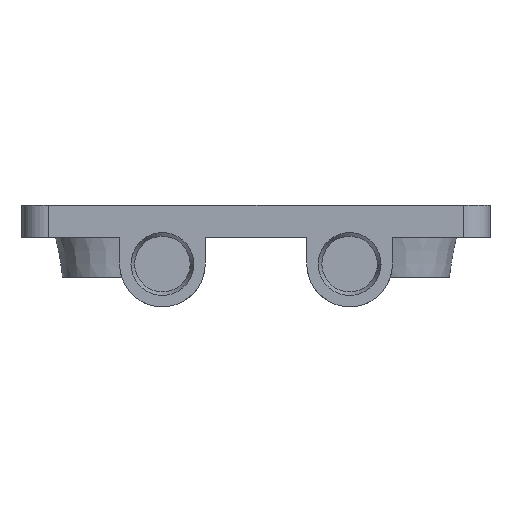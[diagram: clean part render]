
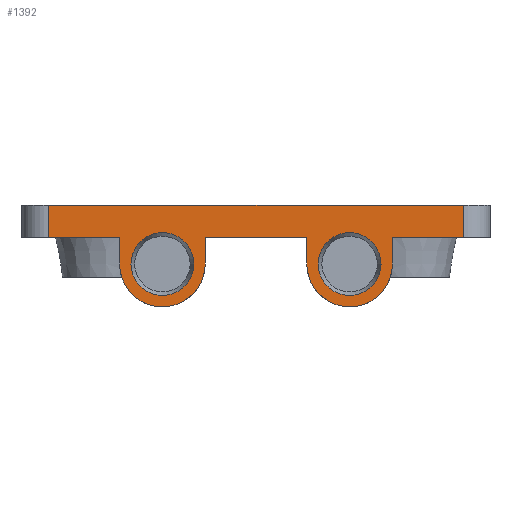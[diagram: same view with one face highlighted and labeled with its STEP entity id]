
A CAD part, front view. The second image highlights one B-rep face of the part: STEP entity #1392.
In plain terms, the highlighted planar face has unit normal (0, -1, 0).
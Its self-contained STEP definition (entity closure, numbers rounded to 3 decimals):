
#60=FACE_BOUND('',#193,.T.);
#61=FACE_BOUND('',#194,.T.);
#67=PLANE('',#1506);
#111=FACE_OUTER_BOUND('',#192,.T.);
#192=EDGE_LOOP('',(#989,#990,#991,#992,#993,#994,#995,#996,#997,#998,#999,
#1000));
#193=EDGE_LOOP('',(#1001));
#194=EDGE_LOOP('',(#1002));
#277=LINE('',#2070,#407);
#279=LINE('',#2076,#409);
#283=LINE('',#2088,#413);
#287=LINE('',#2100,#417);
#304=LINE('',#2154,#434);
#305=LINE('',#2155,#435);
#306=LINE('',#2157,#436);
#307=LINE('',#2160,#437);
#308=LINE('',#2162,#438);
#309=LINE('',#2165,#439);
#407=VECTOR('',#1645,10.);
#409=VECTOR('',#1651,10.);
#413=VECTOR('',#1659,10.);
#417=VECTOR('',#1667,10.);
#434=VECTOR('',#1706,10.);
#435=VECTOR('',#1707,10.);
#436=VECTOR('',#1708,10.);
#437=VECTOR('',#1711,10.);
#438=VECTOR('',#1712,10.);
#439=VECTOR('',#1715,10.);
#553=CIRCLE('',#1507,3.2);
#554=CIRCLE('',#1508,3.2);
#555=CIRCLE('',#1509,2.35);
#556=CIRCLE('',#1510,2.35);
#601=VERTEX_POINT('',#2067);
#602=VERTEX_POINT('',#2069);
#604=VERTEX_POINT('',#2075);
#609=VERTEX_POINT('',#2085);
#610=VERTEX_POINT('',#2087);
#615=VERTEX_POINT('',#2097);
#616=VERTEX_POINT('',#2099);
#642=VERTEX_POINT('',#2153);
#643=VERTEX_POINT('',#2156);
#644=VERTEX_POINT('',#2158);
#645=VERTEX_POINT('',#2161);
#646=VERTEX_POINT('',#2163);
#647=VERTEX_POINT('',#2166);
#648=VERTEX_POINT('',#2168);
#735=EDGE_CURVE('',#601,#602,#277,.T.);
#738=EDGE_CURVE('',#602,#604,#279,.T.);
#744=EDGE_CURVE('',#609,#610,#283,.T.);
#750=EDGE_CURVE('',#615,#616,#287,.T.);
#777=EDGE_CURVE('',#642,#601,#304,.T.);
#778=EDGE_CURVE('',#616,#642,#305,.T.);
#779=EDGE_CURVE('',#643,#615,#306,.T.);
#780=EDGE_CURVE('',#643,#644,#553,.T.);
#781=EDGE_CURVE('',#644,#610,#307,.T.);
#782=EDGE_CURVE('',#645,#609,#308,.T.);
#783=EDGE_CURVE('',#645,#646,#554,.T.);
#784=EDGE_CURVE('',#646,#604,#309,.T.);
#785=EDGE_CURVE('',#647,#647,#555,.T.);
#786=EDGE_CURVE('',#648,#648,#556,.T.);
#989=ORIENTED_EDGE('',*,*,#735,.F.);
#990=ORIENTED_EDGE('',*,*,#777,.F.);
#991=ORIENTED_EDGE('',*,*,#778,.F.);
#992=ORIENTED_EDGE('',*,*,#750,.F.);
#993=ORIENTED_EDGE('',*,*,#779,.F.);
#994=ORIENTED_EDGE('',*,*,#780,.T.);
#995=ORIENTED_EDGE('',*,*,#781,.T.);
#996=ORIENTED_EDGE('',*,*,#744,.F.);
#997=ORIENTED_EDGE('',*,*,#782,.F.);
#998=ORIENTED_EDGE('',*,*,#783,.T.);
#999=ORIENTED_EDGE('',*,*,#784,.T.);
#1000=ORIENTED_EDGE('',*,*,#738,.F.);
#1001=ORIENTED_EDGE('',*,*,#785,.T.);
#1002=ORIENTED_EDGE('',*,*,#786,.T.);
#1392=ADVANCED_FACE('',(#111,#60,#61),#67,.T.);
#1506=AXIS2_PLACEMENT_3D('',#2152,#1704,#1705);
#1507=AXIS2_PLACEMENT_3D('',#2159,#1709,#1710);
#1508=AXIS2_PLACEMENT_3D('',#2164,#1713,#1714);
#1509=AXIS2_PLACEMENT_3D('',#2167,#1716,#1717);
#1510=AXIS2_PLACEMENT_3D('',#2169,#1718,#1719);
#1645=DIRECTION('',(0.,0.,-1.));
#1651=DIRECTION('',(-1.,0.,0.));
#1659=DIRECTION('',(-1.,0.,0.));
#1667=DIRECTION('',(-1.,0.,0.));
#1704=DIRECTION('center_axis',(0.,-1.,0.));
#1705=DIRECTION('ref_axis',(-1.,0.,0.));
#1706=DIRECTION('',(1.,0.,0.));
#1707=DIRECTION('',(0.,0.,1.));
#1708=DIRECTION('',(0.,0.,1.));
#1709=DIRECTION('center_axis',(0.,-1.,0.));
#1710=DIRECTION('ref_axis',(-1.,0.,0.));
#1711=DIRECTION('',(0.,0.,1.));
#1712=DIRECTION('',(0.,0.,1.));
#1713=DIRECTION('center_axis',(0.,-1.,0.));
#1714=DIRECTION('ref_axis',(-1.,0.,0.));
#1715=DIRECTION('',(0.,0.,1.));
#1716=DIRECTION('center_axis',(0.,1.,0.));
#1717=DIRECTION('ref_axis',(0.,0.,-1.));
#1718=DIRECTION('center_axis',(0.,1.,0.));
#1719=DIRECTION('ref_axis',(0.,0.,-1.));
#2067=CARTESIAN_POINT('',(-4.5,-56.227,-2.));
#2069=CARTESIAN_POINT('',(-4.5,-56.227,-4.4));
#2070=CARTESIAN_POINT('',(-4.5,-56.227,-2.));
#2075=CARTESIAN_POINT('',(-9.8,-56.227,-4.4));
#2076=CARTESIAN_POINT('',(-33.5,-56.227,-4.4));
#2085=CARTESIAN_POINT('',(-16.2,-56.227,-4.4));
#2087=CARTESIAN_POINT('',(-23.8,-56.227,-4.4));
#2088=CARTESIAN_POINT('',(-33.5,-56.227,-4.4));
#2097=CARTESIAN_POINT('',(-30.2,-56.227,-4.4));
#2099=CARTESIAN_POINT('',(-35.5,-56.227,-4.4));
#2100=CARTESIAN_POINT('',(-33.5,-56.227,-4.4));
#2152=CARTESIAN_POINT('Origin',(-6.5,-56.227,-2.));
#2153=CARTESIAN_POINT('',(-35.5,-56.227,-2.));
#2154=CARTESIAN_POINT('',(-33.5,-56.227,-2.));
#2155=CARTESIAN_POINT('',(-35.5,-56.227,-2.));
#2156=CARTESIAN_POINT('',(-30.2,-56.227,-6.4));
#2157=CARTESIAN_POINT('',(-30.2,-56.227,-6.4));
#2158=CARTESIAN_POINT('',(-23.8,-56.227,-6.4));
#2159=CARTESIAN_POINT('Origin',(-27.,-56.227,-6.4));
#2160=CARTESIAN_POINT('',(-23.8,-56.227,-6.4));
#2161=CARTESIAN_POINT('',(-16.2,-56.227,-6.4));
#2162=CARTESIAN_POINT('',(-16.2,-56.227,-6.4));
#2163=CARTESIAN_POINT('',(-9.8,-56.227,-6.4));
#2164=CARTESIAN_POINT('Origin',(-13.,-56.227,-6.4));
#2165=CARTESIAN_POINT('',(-9.8,-56.227,-6.4));
#2166=CARTESIAN_POINT('',(-13.,-56.227,-4.05));
#2167=CARTESIAN_POINT('Origin',(-13.,-56.227,-6.4));
#2168=CARTESIAN_POINT('',(-27.,-56.227,-4.05));
#2169=CARTESIAN_POINT('Origin',(-27.,-56.227,-6.4));
